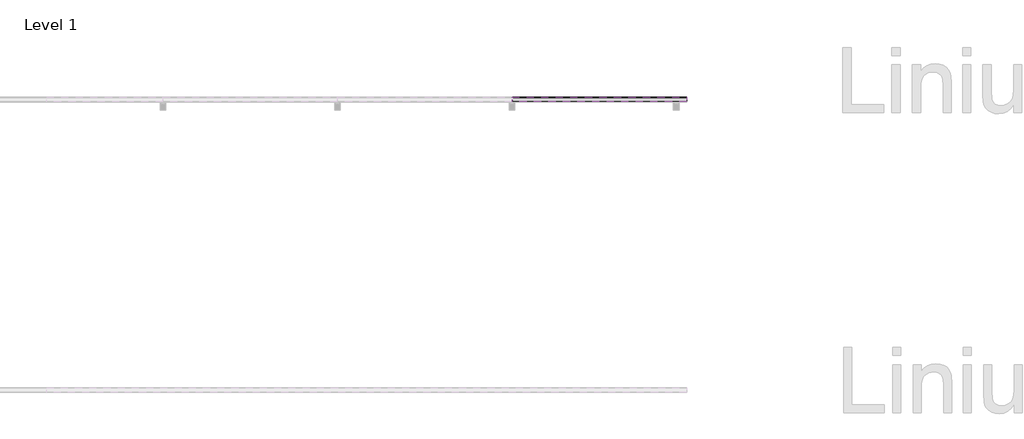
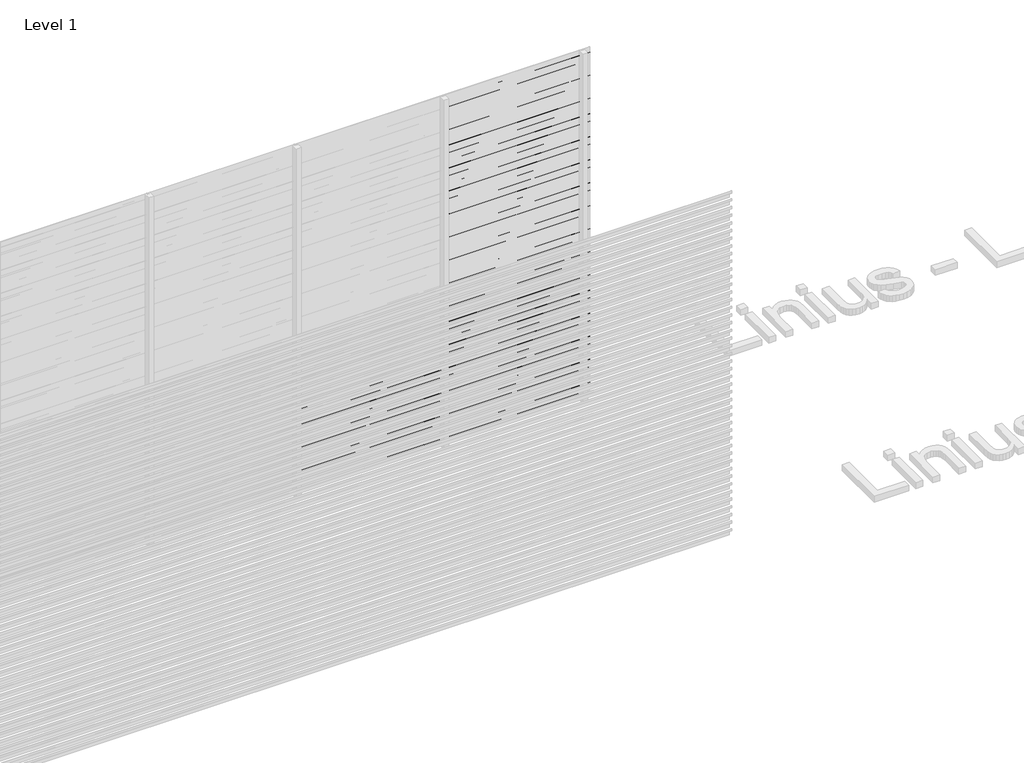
# One storey, part 98 of 540: 56 proxies.
"""IFC4 building model written with IfcOpenShell, lengths in millimetres."""

from ifc_helpers import new_model, si_unit, frame, origin, place, context, project, spatial, polyline, outline, extrude, element, save

model = new_model("IFC4")

# Units and contexts
model_context = context("Model", 3, world=origin())
ifc_project = project(units=[si_unit("LENGTHUNIT", "METRE", prefix="MILLI")], contexts=[model_context])

# Site, building, storey
site = spatial("IfcSite", under=ifc_project)
building = spatial("IfcBuilding", under=site)
storey = spatial("IfcBuildingStorey", under=building, Name="Level 1", Elevation=0.0)

# Proxies
placement = place(None, origin())
element("IfcBuildingElementProxy", 1, Name="Wall Sweeps", at=placement, inside=storey, context=model_context, shape_type="SweptSolid", body=[
    extrude(outline(polyline([(36543.8040136, 686.0), (36543.8040136, 653.0), (36542.5540136, 653.7216933), (36542.5540136, 685.2872415), (36512.8040136, 706.0588647), (36512.8040136, 726.0), (36514.0540136, 726.0), (36514.0540136, 706.7716232), (36543.8040136, 686.0)])), frame((48566.6208097, 0.0, 0.0), z_axis=(1.0, 0.0, 0.0), x_axis=(0.0, 1.0, 0.0)), (0.0, 0.0, 1.0), 1200.0),
])
element("IfcBuildingElementProxy", 2, Name="Wall Sweeps", at=placement, inside=storey, context=model_context, shape_type="SweptSolid", body=[
    extrude(outline(polyline([(36543.8040136, 620.0), (36543.8040136, 587.0), (36542.5540136, 587.7216933), (36542.5540136, 619.2872415), (36512.8040136, 640.0588647), (36512.8040136, 660.0), (36514.0540136, 660.0), (36514.0540136, 640.7716232), (36543.8040136, 620.0)])), frame((48566.6208097, 0.0, 0.0), z_axis=(1.0, 0.0, 0.0), x_axis=(0.0, 1.0, 0.0)), (0.0, 0.0, 1.0), 1200.0),
])
element("IfcBuildingElementProxy", 3, Name="Wall Sweeps", at=placement, inside=storey, context=model_context, shape_type="SweptSolid", body=[
    extrude(outline(polyline([(36543.8040136, 554.0), (36543.8040136, 521.0), (36542.5540136, 521.7216933), (36542.5540136, 553.2872415), (36512.8040136, 574.0588647), (36512.8040136, 594.0), (36514.0540136, 594.0), (36514.0540136, 574.7716232), (36543.8040136, 554.0)])), frame((48566.6208097, 0.0, 0.0), z_axis=(1.0, 0.0, 0.0), x_axis=(0.0, 1.0, 0.0)), (0.0, 0.0, 1.0), 1200.0),
])
element("IfcBuildingElementProxy", 4, Name="Wall Sweeps", at=placement, inside=storey, context=model_context, shape_type="SweptSolid", body=[
    extrude(outline(polyline([(36543.8040136, 488.0), (36543.8040136, 455.0), (36542.5540136, 455.7216933), (36542.5540136, 487.2872415), (36512.8040136, 508.0588647), (36512.8040136, 528.0), (36514.0540136, 528.0), (36514.0540136, 508.7716232), (36543.8040136, 488.0)])), frame((48566.6208097, 0.0, 0.0), z_axis=(1.0, 0.0, 0.0), x_axis=(0.0, 1.0, 0.0)), (0.0, 0.0, 1.0), 1200.0),
])
element("IfcBuildingElementProxy", 5, Name="Wall Sweeps", at=placement, inside=storey, context=model_context, shape_type="SweptSolid", body=[
    extrude(outline(polyline([(36543.8040136, 422.0), (36543.8040136, 389.0), (36542.5540136, 389.7216933), (36542.5540136, 421.2872415), (36512.8040136, 442.0588647), (36512.8040136, 462.0), (36514.0540136, 462.0), (36514.0540136, 442.7716232), (36543.8040136, 422.0)])), frame((48566.6208097, 0.0, 0.0), z_axis=(1.0, 0.0, 0.0), x_axis=(0.0, 1.0, 0.0)), (0.0, 0.0, 1.0), 1200.0),
])
element("IfcBuildingElementProxy", 6, Name="Wall Sweeps", at=placement, inside=storey, context=model_context, shape_type="SweptSolid", body=[
    extrude(outline(polyline([(36543.8040136, 356.0), (36543.8040136, 323.0), (36542.5540136, 323.7216933), (36542.5540136, 355.2872415), (36512.8040136, 376.0588647), (36512.8040136, 396.0), (36514.0540136, 396.0), (36514.0540136, 376.7716232), (36543.8040136, 356.0)])), frame((48566.6208097, 0.0, 0.0), z_axis=(1.0, 0.0, 0.0), x_axis=(0.0, 1.0, 0.0)), (0.0, 0.0, 1.0), 1200.0),
])
element("IfcBuildingElementProxy", 7, Name="Wall Sweeps", at=placement, inside=storey, context=model_context, shape_type="SweptSolid", body=[
    extrude(outline(polyline([(36543.8040136, 290.0), (36543.8040136, 257.0), (36542.5540136, 257.7216933), (36542.5540136, 289.2872415), (36512.8040136, 310.0588647), (36512.8040136, 330.0), (36514.0540136, 330.0), (36514.0540136, 310.7716232), (36543.8040136, 290.0)])), frame((48566.6208097, 0.0, 0.0), z_axis=(1.0, 0.0, 0.0), x_axis=(0.0, 1.0, 0.0)), (0.0, 0.0, 1.0), 1200.0),
])
element("IfcBuildingElementProxy", 8, Name="Wall Sweeps", at=placement, inside=storey, context=model_context, shape_type="SweptSolid", body=[
    extrude(outline(polyline([(36543.8040136, 224.0), (36543.8040136, 191.0), (36542.5540136, 191.7216933), (36542.5540136, 223.2872415), (36512.8040136, 244.0588647), (36512.8040136, 264.0), (36514.0540136, 264.0), (36514.0540136, 244.7716232), (36543.8040136, 224.0)])), frame((48566.6208097, 0.0, 0.0), z_axis=(1.0, 0.0, 0.0), x_axis=(0.0, 1.0, 0.0)), (0.0, 0.0, 1.0), 1200.0),
])
element("IfcBuildingElementProxy", 9, Name="Wall Sweeps", at=placement, inside=storey, context=model_context, shape_type="SweptSolid", body=[
    extrude(outline(polyline([(36543.8040136, 158.0), (36543.8040136, 125.0), (36542.5540136, 125.7216933), (36542.5540136, 157.2872415), (36512.8040136, 178.0588647), (36512.8040136, 198.0), (36514.0540136, 198.0), (36514.0540136, 178.7716232), (36543.8040136, 158.0)])), frame((48566.6208097, 0.0, 0.0), z_axis=(1.0, 0.0, 0.0), x_axis=(0.0, 1.0, 0.0)), (0.0, 0.0, 1.0), 1200.0),
])
element("IfcBuildingElementProxy", 10, Name="Wall Sweeps", at=placement, inside=storey, context=model_context, shape_type="SweptSolid", body=[
    extrude(outline(polyline([(36543.8040136, 92.0), (36543.8040136, 59.0), (36542.5540136, 59.7216933), (36542.5540136, 91.2872415), (36512.8040136, 112.0588647), (36512.8040136, 132.0), (36514.0540136, 132.0), (36514.0540136, 112.7716232), (36543.8040136, 92.0)])), frame((48566.6208097, 0.0, 0.0), z_axis=(1.0, 0.0, 0.0), x_axis=(0.0, 1.0, 0.0)), (0.0, 0.0, 1.0), 1200.0),
])
element("IfcBuildingElementProxy", 11, Name="Wall Sweeps", at=placement, inside=storey, context=model_context, shape_type="SweptSolid", body=[
    extrude(outline(polyline([(36543.8040136, 26.0), (36543.8040136, -7.0), (36542.5540136, -6.2783067), (36542.5540136, 25.2872415), (36512.8040136, 46.0588647), (36512.8040136, 66.0), (36514.0540136, 66.0), (36514.0540136, 46.7716232), (36543.8040136, 26.0)])), frame((48566.6208097, 0.0, 0.0), z_axis=(1.0, 0.0, 0.0), x_axis=(0.0, 1.0, 0.0)), (0.0, 0.0, 1.0), 1200.0),
])
element("IfcBuildingElementProxy", 12, Name="Wall Sweeps", at=placement, inside=storey, context=model_context, shape_type="SweptSolid", body=[
    extrude(outline(polyline([(36543.8040136, 2930.0), (36543.8040136, 2897.0), (36542.5540136, 2897.7216933), (36542.5540136, 2929.2872415), (36512.8040136, 2950.0588647), (36512.8040136, 2970.0), (36514.0540136, 2970.0), (36514.0540136, 2950.7716232), (36543.8040136, 2930.0)])), frame((49766.6208097, 0.0, 0.0), z_axis=(1.0, 0.0, 0.0), x_axis=(0.0, 1.0, 0.0)), (0.0, 0.0, 1.0), 1200.0),
])
element("IfcBuildingElementProxy", 13, Name="Wall Sweeps", at=placement, inside=storey, context=model_context, shape_type="SweptSolid", body=[
    extrude(outline(polyline([(36543.8040136, 2864.0), (36543.8040136, 2831.0), (36542.5540136, 2831.7216933), (36542.5540136, 2863.2872415), (36512.8040136, 2884.0588647), (36512.8040136, 2904.0), (36514.0540136, 2904.0), (36514.0540136, 2884.7716232), (36543.8040136, 2864.0)])), frame((49766.6208097, 0.0, 0.0), z_axis=(1.0, 0.0, 0.0), x_axis=(0.0, 1.0, 0.0)), (0.0, 0.0, 1.0), 1200.0),
])
element("IfcBuildingElementProxy", 14, Name="Wall Sweeps", at=placement, inside=storey, context=model_context, shape_type="SweptSolid", body=[
    extrude(outline(polyline([(36543.8040136, 2798.0), (36543.8040136, 2765.0), (36542.5540136, 2765.7216933), (36542.5540136, 2797.2872415), (36512.8040136, 2818.0588647), (36512.8040136, 2838.0), (36514.0540136, 2838.0), (36514.0540136, 2818.7716232), (36543.8040136, 2798.0)])), frame((49766.6208097, 0.0, 0.0), z_axis=(1.0, 0.0, 0.0), x_axis=(0.0, 1.0, 0.0)), (0.0, 0.0, 1.0), 1200.0),
])
element("IfcBuildingElementProxy", 15, Name="Wall Sweeps", at=placement, inside=storey, context=model_context, shape_type="SweptSolid", body=[
    extrude(outline(polyline([(36543.8040136, 2732.0), (36543.8040136, 2699.0), (36542.5540136, 2699.7216933), (36542.5540136, 2731.2872415), (36512.8040136, 2752.0588647), (36512.8040136, 2772.0), (36514.0540136, 2772.0), (36514.0540136, 2752.7716232), (36543.8040136, 2732.0)])), frame((49766.6208097, 0.0, 0.0), z_axis=(1.0, 0.0, 0.0), x_axis=(0.0, 1.0, 0.0)), (0.0, 0.0, 1.0), 1200.0),
])
element("IfcBuildingElementProxy", 16, Name="Wall Sweeps", at=placement, inside=storey, context=model_context, shape_type="SweptSolid", body=[
    extrude(outline(polyline([(36543.8040136, 2666.0), (36543.8040136, 2633.0), (36542.5540136, 2633.7216933), (36542.5540136, 2665.2872415), (36512.8040136, 2686.0588647), (36512.8040136, 2706.0), (36514.0540136, 2706.0), (36514.0540136, 2686.7716232), (36543.8040136, 2666.0)])), frame((49766.6208097, 0.0, 0.0), z_axis=(1.0, 0.0, 0.0), x_axis=(0.0, 1.0, 0.0)), (0.0, 0.0, 1.0), 1200.0),
])
element("IfcBuildingElementProxy", 17, Name="Wall Sweeps", at=placement, inside=storey, context=model_context, shape_type="SweptSolid", body=[
    extrude(outline(polyline([(36543.8040136, 2600.0), (36543.8040136, 2567.0), (36542.5540136, 2567.7216933), (36542.5540136, 2599.2872415), (36512.8040136, 2620.0588647), (36512.8040136, 2640.0), (36514.0540136, 2640.0), (36514.0540136, 2620.7716232), (36543.8040136, 2600.0)])), frame((49766.6208097, 0.0, 0.0), z_axis=(1.0, 0.0, 0.0), x_axis=(0.0, 1.0, 0.0)), (0.0, 0.0, 1.0), 1200.0),
])
element("IfcBuildingElementProxy", 18, Name="Wall Sweeps", at=placement, inside=storey, context=model_context, shape_type="SweptSolid", body=[
    extrude(outline(polyline([(36543.8040136, 2534.0), (36543.8040136, 2501.0), (36542.5540136, 2501.7216933), (36542.5540136, 2533.2872415), (36512.8040136, 2554.0588647), (36512.8040136, 2574.0), (36514.0540136, 2574.0), (36514.0540136, 2554.7716232), (36543.8040136, 2534.0)])), frame((49766.6208097, 0.0, 0.0), z_axis=(1.0, 0.0, 0.0), x_axis=(0.0, 1.0, 0.0)), (0.0, 0.0, 1.0), 1200.0),
])
element("IfcBuildingElementProxy", 19, Name="Wall Sweeps", at=placement, inside=storey, context=model_context, shape_type="SweptSolid", body=[
    extrude(outline(polyline([(36543.8040136, 2468.0), (36543.8040136, 2435.0), (36542.5540136, 2435.7216933), (36542.5540136, 2467.2872415), (36512.8040136, 2488.0588647), (36512.8040136, 2508.0), (36514.0540136, 2508.0), (36514.0540136, 2488.7716232), (36543.8040136, 2468.0)])), frame((49766.6208097, 0.0, 0.0), z_axis=(1.0, 0.0, 0.0), x_axis=(0.0, 1.0, 0.0)), (0.0, 0.0, 1.0), 1200.0),
])
element("IfcBuildingElementProxy", 20, Name="Wall Sweeps", at=placement, inside=storey, context=model_context, shape_type="SweptSolid", body=[
    extrude(outline(polyline([(36543.8040136, 2402.0), (36543.8040136, 2369.0), (36542.5540136, 2369.7216933), (36542.5540136, 2401.2872415), (36512.8040136, 2422.0588647), (36512.8040136, 2442.0), (36514.0540136, 2442.0), (36514.0540136, 2422.7716232), (36543.8040136, 2402.0)])), frame((49766.6208097, 0.0, 0.0), z_axis=(1.0, 0.0, 0.0), x_axis=(0.0, 1.0, 0.0)), (0.0, 0.0, 1.0), 1200.0),
])
element("IfcBuildingElementProxy", 21, Name="Wall Sweeps", at=placement, inside=storey, context=model_context, shape_type="SweptSolid", body=[
    extrude(outline(polyline([(36543.8040136, 2336.0), (36543.8040136, 2303.0), (36542.5540136, 2303.7216933), (36542.5540136, 2335.2872415), (36512.8040136, 2356.0588647), (36512.8040136, 2376.0), (36514.0540136, 2376.0), (36514.0540136, 2356.7716232), (36543.8040136, 2336.0)])), frame((49766.6208097, 0.0, 0.0), z_axis=(1.0, 0.0, 0.0), x_axis=(0.0, 1.0, 0.0)), (0.0, 0.0, 1.0), 1200.0),
])
element("IfcBuildingElementProxy", 22, Name="Wall Sweeps", at=placement, inside=storey, context=model_context, shape_type="SweptSolid", body=[
    extrude(outline(polyline([(36543.8040136, 2270.0), (36543.8040136, 2237.0), (36542.5540136, 2237.7216933), (36542.5540136, 2269.2872415), (36512.8040136, 2290.0588647), (36512.8040136, 2310.0), (36514.0540136, 2310.0), (36514.0540136, 2290.7716232), (36543.8040136, 2270.0)])), frame((49766.6208097, 0.0, 0.0), z_axis=(1.0, 0.0, 0.0), x_axis=(0.0, 1.0, 0.0)), (0.0, 0.0, 1.0), 1200.0),
])
element("IfcBuildingElementProxy", 23, Name="Wall Sweeps", at=placement, inside=storey, context=model_context, shape_type="SweptSolid", body=[
    extrude(outline(polyline([(36543.8040136, 2204.0), (36543.8040136, 2171.0), (36542.5540136, 2171.7216933), (36542.5540136, 2203.2872415), (36512.8040136, 2224.0588647), (36512.8040136, 2244.0), (36514.0540136, 2244.0), (36514.0540136, 2224.7716232), (36543.8040136, 2204.0)])), frame((49766.6208097, 0.0, 0.0), z_axis=(1.0, 0.0, 0.0), x_axis=(0.0, 1.0, 0.0)), (0.0, 0.0, 1.0), 1200.0),
])
element("IfcBuildingElementProxy", 24, Name="Wall Sweeps", at=placement, inside=storey, context=model_context, shape_type="SweptSolid", body=[
    extrude(outline(polyline([(36543.8040136, 2138.0), (36543.8040136, 2105.0), (36542.5540136, 2105.7216933), (36542.5540136, 2137.2872415), (36512.8040136, 2158.0588647), (36512.8040136, 2178.0), (36514.0540136, 2178.0), (36514.0540136, 2158.7716232), (36543.8040136, 2138.0)])), frame((49766.6208097, 0.0, 0.0), z_axis=(1.0, 0.0, 0.0), x_axis=(0.0, 1.0, 0.0)), (0.0, 0.0, 1.0), 1200.0),
])
element("IfcBuildingElementProxy", 25, Name="Wall Sweeps", at=placement, inside=storey, context=model_context, shape_type="SweptSolid", body=[
    extrude(outline(polyline([(36543.8040136, 2072.0), (36543.8040136, 2039.0), (36542.5540136, 2039.7216933), (36542.5540136, 2071.2872415), (36512.8040136, 2092.0588647), (36512.8040136, 2112.0), (36514.0540136, 2112.0), (36514.0540136, 2092.7716232), (36543.8040136, 2072.0)])), frame((49766.6208097, 0.0, 0.0), z_axis=(1.0, 0.0, 0.0), x_axis=(0.0, 1.0, 0.0)), (0.0, 0.0, 1.0), 1200.0),
])
element("IfcBuildingElementProxy", 26, Name="Wall Sweeps", at=placement, inside=storey, context=model_context, shape_type="SweptSolid", body=[
    extrude(outline(polyline([(36543.8040136, 2006.0), (36543.8040136, 1973.0), (36542.5540136, 1973.7216933), (36542.5540136, 2005.2872415), (36512.8040136, 2026.0588647), (36512.8040136, 2046.0), (36514.0540136, 2046.0), (36514.0540136, 2026.7716232), (36543.8040136, 2006.0)])), frame((49766.6208097, 0.0, 0.0), z_axis=(1.0, 0.0, 0.0), x_axis=(0.0, 1.0, 0.0)), (0.0, 0.0, 1.0), 1200.0),
])
element("IfcBuildingElementProxy", 27, Name="Wall Sweeps", at=placement, inside=storey, context=model_context, shape_type="SweptSolid", body=[
    extrude(outline(polyline([(36543.8040136, 1940.0), (36543.8040136, 1907.0), (36542.5540136, 1907.7216933), (36542.5540136, 1939.2872415), (36512.8040136, 1960.0588647), (36512.8040136, 1980.0), (36514.0540136, 1980.0), (36514.0540136, 1960.7716232), (36543.8040136, 1940.0)])), frame((49766.6208097, 0.0, 0.0), z_axis=(1.0, 0.0, 0.0), x_axis=(0.0, 1.0, 0.0)), (0.0, 0.0, 1.0), 1200.0),
])
element("IfcBuildingElementProxy", 28, Name="Wall Sweeps", at=placement, inside=storey, context=model_context, shape_type="SweptSolid", body=[
    extrude(outline(polyline([(36543.8040136, 1874.0), (36543.8040136, 1841.0), (36542.5540136, 1841.7216933), (36542.5540136, 1873.2872415), (36512.8040136, 1894.0588647), (36512.8040136, 1914.0), (36514.0540136, 1914.0), (36514.0540136, 1894.7716232), (36543.8040136, 1874.0)])), frame((49766.6208097, 0.0, 0.0), z_axis=(1.0, 0.0, 0.0), x_axis=(0.0, 1.0, 0.0)), (0.0, 0.0, 1.0), 1200.0),
])
element("IfcBuildingElementProxy", 29, Name="Wall Sweeps", at=placement, inside=storey, context=model_context, shape_type="SweptSolid", body=[
    extrude(outline(polyline([(36543.8040136, 1808.0), (36543.8040136, 1775.0), (36542.5540136, 1775.7216933), (36542.5540136, 1807.2872415), (36512.8040136, 1828.0588647), (36512.8040136, 1848.0), (36514.0540136, 1848.0), (36514.0540136, 1828.7716232), (36543.8040136, 1808.0)])), frame((49766.6208097, 0.0, 0.0), z_axis=(1.0, 0.0, 0.0), x_axis=(0.0, 1.0, 0.0)), (0.0, 0.0, 1.0), 1200.0),
])
element("IfcBuildingElementProxy", 30, Name="Wall Sweeps", at=placement, inside=storey, context=model_context, shape_type="SweptSolid", body=[
    extrude(outline(polyline([(36543.8040136, 1742.0), (36543.8040136, 1709.0), (36542.5540136, 1709.7216933), (36542.5540136, 1741.2872415), (36512.8040136, 1762.0588647), (36512.8040136, 1782.0), (36514.0540136, 1782.0), (36514.0540136, 1762.7716232), (36543.8040136, 1742.0)])), frame((49766.6208097, 0.0, 0.0), z_axis=(1.0, 0.0, 0.0), x_axis=(0.0, 1.0, 0.0)), (0.0, 0.0, 1.0), 1200.0),
])
element("IfcBuildingElementProxy", 31, Name="Wall Sweeps", at=placement, inside=storey, context=model_context, shape_type="SweptSolid", body=[
    extrude(outline(polyline([(36543.8040136, 1676.0), (36543.8040136, 1643.0), (36542.5540136, 1643.7216933), (36542.5540136, 1675.2872415), (36512.8040136, 1696.0588647), (36512.8040136, 1716.0), (36514.0540136, 1716.0), (36514.0540136, 1696.7716232), (36543.8040136, 1676.0)])), frame((49766.6208097, 0.0, 0.0), z_axis=(1.0, 0.0, 0.0), x_axis=(0.0, 1.0, 0.0)), (0.0, 0.0, 1.0), 1200.0),
])
element("IfcBuildingElementProxy", 32, Name="Wall Sweeps", at=placement, inside=storey, context=model_context, shape_type="SweptSolid", body=[
    extrude(outline(polyline([(36543.8040136, 1610.0), (36543.8040136, 1577.0), (36542.5540136, 1577.7216933), (36542.5540136, 1609.2872415), (36512.8040136, 1630.0588647), (36512.8040136, 1650.0), (36514.0540136, 1650.0), (36514.0540136, 1630.7716232), (36543.8040136, 1610.0)])), frame((49766.6208097, 0.0, 0.0), z_axis=(1.0, 0.0, 0.0), x_axis=(0.0, 1.0, 0.0)), (0.0, 0.0, 1.0), 1200.0),
])
element("IfcBuildingElementProxy", 33, Name="Wall Sweeps", at=placement, inside=storey, context=model_context, shape_type="SweptSolid", body=[
    extrude(outline(polyline([(36543.8040136, 1544.0), (36543.8040136, 1511.0), (36542.5540136, 1511.7216933), (36542.5540136, 1543.2872415), (36512.8040136, 1564.0588647), (36512.8040136, 1584.0), (36514.0540136, 1584.0), (36514.0540136, 1564.7716232), (36543.8040136, 1544.0)])), frame((49766.6208097, 0.0, 0.0), z_axis=(1.0, 0.0, 0.0), x_axis=(0.0, 1.0, 0.0)), (0.0, 0.0, 1.0), 1200.0),
])
element("IfcBuildingElementProxy", 34, Name="Wall Sweeps", at=placement, inside=storey, context=model_context, shape_type="SweptSolid", body=[
    extrude(outline(polyline([(36543.8040136, 1478.0), (36543.8040136, 1445.0), (36542.5540136, 1445.7216933), (36542.5540136, 1477.2872415), (36512.8040136, 1498.0588647), (36512.8040136, 1518.0), (36514.0540136, 1518.0), (36514.0540136, 1498.7716232), (36543.8040136, 1478.0)])), frame((49766.6208097, 0.0, 0.0), z_axis=(1.0, 0.0, 0.0), x_axis=(0.0, 1.0, 0.0)), (0.0, 0.0, 1.0), 1200.0),
])
element("IfcBuildingElementProxy", 35, Name="Wall Sweeps", at=placement, inside=storey, context=model_context, shape_type="SweptSolid", body=[
    extrude(outline(polyline([(36543.8040136, 1412.0), (36543.8040136, 1379.0), (36542.5540136, 1379.7216933), (36542.5540136, 1411.2872415), (36512.8040136, 1432.0588647), (36512.8040136, 1452.0), (36514.0540136, 1452.0), (36514.0540136, 1432.7716232), (36543.8040136, 1412.0)])), frame((49766.6208097, 0.0, 0.0), z_axis=(1.0, 0.0, 0.0), x_axis=(0.0, 1.0, 0.0)), (0.0, 0.0, 1.0), 1200.0),
])
element("IfcBuildingElementProxy", 36, Name="Wall Sweeps", at=placement, inside=storey, context=model_context, shape_type="SweptSolid", body=[
    extrude(outline(polyline([(36543.8040136, 1346.0), (36543.8040136, 1313.0), (36542.5540136, 1313.7216933), (36542.5540136, 1345.2872415), (36512.8040136, 1366.0588647), (36512.8040136, 1386.0), (36514.0540136, 1386.0), (36514.0540136, 1366.7716232), (36543.8040136, 1346.0)])), frame((49766.6208097, 0.0, 0.0), z_axis=(1.0, 0.0, 0.0), x_axis=(0.0, 1.0, 0.0)), (0.0, 0.0, 1.0), 1200.0),
])
element("IfcBuildingElementProxy", 37, Name="Wall Sweeps", at=placement, inside=storey, context=model_context, shape_type="SweptSolid", body=[
    extrude(outline(polyline([(36543.8040136, 1280.0), (36543.8040136, 1247.0), (36542.5540136, 1247.7216933), (36542.5540136, 1279.2872415), (36512.8040136, 1300.0588647), (36512.8040136, 1320.0), (36514.0540136, 1320.0), (36514.0540136, 1300.7716232), (36543.8040136, 1280.0)])), frame((49766.6208097, 0.0, 0.0), z_axis=(1.0, 0.0, 0.0), x_axis=(0.0, 1.0, 0.0)), (0.0, 0.0, 1.0), 1200.0),
])
element("IfcBuildingElementProxy", 38, Name="Wall Sweeps", at=placement, inside=storey, context=model_context, shape_type="SweptSolid", body=[
    extrude(outline(polyline([(36543.8040136, 1214.0), (36543.8040136, 1181.0), (36542.5540136, 1181.7216933), (36542.5540136, 1213.2872415), (36512.8040136, 1234.0588647), (36512.8040136, 1254.0), (36514.0540136, 1254.0), (36514.0540136, 1234.7716232), (36543.8040136, 1214.0)])), frame((49766.6208097, 0.0, 0.0), z_axis=(1.0, 0.0, 0.0), x_axis=(0.0, 1.0, 0.0)), (0.0, 0.0, 1.0), 1200.0),
])
element("IfcBuildingElementProxy", 39, Name="Wall Sweeps", at=placement, inside=storey, context=model_context, shape_type="SweptSolid", body=[
    extrude(outline(polyline([(36543.8040136, 1148.0), (36543.8040136, 1115.0), (36542.5540136, 1115.7216933), (36542.5540136, 1147.2872415), (36512.8040136, 1168.0588647), (36512.8040136, 1188.0), (36514.0540136, 1188.0), (36514.0540136, 1168.7716232), (36543.8040136, 1148.0)])), frame((49766.6208097, 0.0, 0.0), z_axis=(1.0, 0.0, 0.0), x_axis=(0.0, 1.0, 0.0)), (0.0, 0.0, 1.0), 1200.0),
])
element("IfcBuildingElementProxy", 40, Name="Wall Sweeps", at=placement, inside=storey, context=model_context, shape_type="SweptSolid", body=[
    extrude(outline(polyline([(36543.8040136, 1082.0), (36543.8040136, 1049.0), (36542.5540136, 1049.7216933), (36542.5540136, 1081.2872415), (36512.8040136, 1102.0588647), (36512.8040136, 1122.0), (36514.0540136, 1122.0), (36514.0540136, 1102.7716232), (36543.8040136, 1082.0)])), frame((49766.6208097, 0.0, 0.0), z_axis=(1.0, 0.0, 0.0), x_axis=(0.0, 1.0, 0.0)), (0.0, 0.0, 1.0), 1200.0),
])
element("IfcBuildingElementProxy", 41, Name="Wall Sweeps", at=placement, inside=storey, context=model_context, shape_type="SweptSolid", body=[
    extrude(outline(polyline([(36543.8040136, 1016.0), (36543.8040136, 983.0), (36542.5540136, 983.7216933), (36542.5540136, 1015.2872415), (36512.8040136, 1036.0588647), (36512.8040136, 1056.0), (36514.0540136, 1056.0), (36514.0540136, 1036.7716232), (36543.8040136, 1016.0)])), frame((49766.6208097, 0.0, 0.0), z_axis=(1.0, 0.0, 0.0), x_axis=(0.0, 1.0, 0.0)), (0.0, 0.0, 1.0), 1200.0),
])
element("IfcBuildingElementProxy", 42, Name="Wall Sweeps", at=placement, inside=storey, context=model_context, shape_type="SweptSolid", body=[
    extrude(outline(polyline([(36543.8040136, 950.0), (36543.8040136, 917.0), (36542.5540136, 917.7216933), (36542.5540136, 949.2872415), (36512.8040136, 970.0588647), (36512.8040136, 990.0), (36514.0540136, 990.0), (36514.0540136, 970.7716232), (36543.8040136, 950.0)])), frame((49766.6208097, 0.0, 0.0), z_axis=(1.0, 0.0, 0.0), x_axis=(0.0, 1.0, 0.0)), (0.0, 0.0, 1.0), 1200.0),
])
element("IfcBuildingElementProxy", 43, Name="Wall Sweeps", at=placement, inside=storey, context=model_context, shape_type="SweptSolid", body=[
    extrude(outline(polyline([(36543.8040136, 884.0), (36543.8040136, 851.0), (36542.5540136, 851.7216933), (36542.5540136, 883.2872415), (36512.8040136, 904.0588647), (36512.8040136, 924.0), (36514.0540136, 924.0), (36514.0540136, 904.7716232), (36543.8040136, 884.0)])), frame((49766.6208097, 0.0, 0.0), z_axis=(1.0, 0.0, 0.0), x_axis=(0.0, 1.0, 0.0)), (0.0, 0.0, 1.0), 1200.0),
])
element("IfcBuildingElementProxy", 44, Name="Wall Sweeps", at=placement, inside=storey, context=model_context, shape_type="SweptSolid", body=[
    extrude(outline(polyline([(36543.8040136, 818.0), (36543.8040136, 785.0), (36542.5540136, 785.7216933), (36542.5540136, 817.2872415), (36512.8040136, 838.0588647), (36512.8040136, 858.0), (36514.0540136, 858.0), (36514.0540136, 838.7716232), (36543.8040136, 818.0)])), frame((49766.6208097, 0.0, 0.0), z_axis=(1.0, 0.0, 0.0), x_axis=(0.0, 1.0, 0.0)), (0.0, 0.0, 1.0), 1200.0),
])
element("IfcBuildingElementProxy", 45, Name="Wall Sweeps", at=placement, inside=storey, context=model_context, shape_type="SweptSolid", body=[
    extrude(outline(polyline([(36543.8040136, 752.0), (36543.8040136, 719.0), (36542.5540136, 719.7216933), (36542.5540136, 751.2872415), (36512.8040136, 772.0588647), (36512.8040136, 792.0), (36514.0540136, 792.0), (36514.0540136, 772.7716232), (36543.8040136, 752.0)])), frame((49766.6208097, 0.0, 0.0), z_axis=(1.0, 0.0, 0.0), x_axis=(0.0, 1.0, 0.0)), (0.0, 0.0, 1.0), 1200.0),
])
element("IfcBuildingElementProxy", 46, Name="Wall Sweeps", at=placement, inside=storey, context=model_context, shape_type="SweptSolid", body=[
    extrude(outline(polyline([(36543.8040136, 686.0), (36543.8040136, 653.0), (36542.5540136, 653.7216933), (36542.5540136, 685.2872415), (36512.8040136, 706.0588647), (36512.8040136, 726.0), (36514.0540136, 726.0), (36514.0540136, 706.7716232), (36543.8040136, 686.0)])), frame((49766.6208097, 0.0, 0.0), z_axis=(1.0, 0.0, 0.0), x_axis=(0.0, 1.0, 0.0)), (0.0, 0.0, 1.0), 1200.0),
])
element("IfcBuildingElementProxy", 47, Name="Wall Sweeps", at=placement, inside=storey, context=model_context, shape_type="SweptSolid", body=[
    extrude(outline(polyline([(36543.8040136, 620.0), (36543.8040136, 587.0), (36542.5540136, 587.7216933), (36542.5540136, 619.2872415), (36512.8040136, 640.0588647), (36512.8040136, 660.0), (36514.0540136, 660.0), (36514.0540136, 640.7716232), (36543.8040136, 620.0)])), frame((49766.6208097, 0.0, 0.0), z_axis=(1.0, 0.0, 0.0), x_axis=(0.0, 1.0, 0.0)), (0.0, 0.0, 1.0), 1200.0),
])
element("IfcBuildingElementProxy", 48, Name="Wall Sweeps", at=placement, inside=storey, context=model_context, shape_type="SweptSolid", body=[
    extrude(outline(polyline([(36543.8040136, 554.0), (36543.8040136, 521.0), (36542.5540136, 521.7216933), (36542.5540136, 553.2872415), (36512.8040136, 574.0588647), (36512.8040136, 594.0), (36514.0540136, 594.0), (36514.0540136, 574.7716232), (36543.8040136, 554.0)])), frame((49766.6208097, 0.0, 0.0), z_axis=(1.0, 0.0, 0.0), x_axis=(0.0, 1.0, 0.0)), (0.0, 0.0, 1.0), 1200.0),
])
element("IfcBuildingElementProxy", 49, Name="Wall Sweeps", at=placement, inside=storey, context=model_context, shape_type="SweptSolid", body=[
    extrude(outline(polyline([(36543.8040136, 488.0), (36543.8040136, 455.0), (36542.5540136, 455.7216933), (36542.5540136, 487.2872415), (36512.8040136, 508.0588647), (36512.8040136, 528.0), (36514.0540136, 528.0), (36514.0540136, 508.7716232), (36543.8040136, 488.0)])), frame((49766.6208097, 0.0, 0.0), z_axis=(1.0, 0.0, 0.0), x_axis=(0.0, 1.0, 0.0)), (0.0, 0.0, 1.0), 1200.0),
])
element("IfcBuildingElementProxy", 50, Name="Wall Sweeps", at=placement, inside=storey, context=model_context, shape_type="SweptSolid", body=[
    extrude(outline(polyline([(36543.8040136, 422.0), (36543.8040136, 389.0), (36542.5540136, 389.7216933), (36542.5540136, 421.2872415), (36512.8040136, 442.0588647), (36512.8040136, 462.0), (36514.0540136, 462.0), (36514.0540136, 442.7716232), (36543.8040136, 422.0)])), frame((49766.6208097, 0.0, 0.0), z_axis=(1.0, 0.0, 0.0), x_axis=(0.0, 1.0, 0.0)), (0.0, 0.0, 1.0), 1200.0),
])
element("IfcBuildingElementProxy", 51, Name="Wall Sweeps", at=placement, inside=storey, context=model_context, shape_type="SweptSolid", body=[
    extrude(outline(polyline([(36543.8040136, 356.0), (36543.8040136, 323.0), (36542.5540136, 323.7216933), (36542.5540136, 355.2872415), (36512.8040136, 376.0588647), (36512.8040136, 396.0), (36514.0540136, 396.0), (36514.0540136, 376.7716232), (36543.8040136, 356.0)])), frame((49766.6208097, 0.0, 0.0), z_axis=(1.0, 0.0, 0.0), x_axis=(0.0, 1.0, 0.0)), (0.0, 0.0, 1.0), 1200.0),
])
element("IfcBuildingElementProxy", 52, Name="Wall Sweeps", at=placement, inside=storey, context=model_context, shape_type="SweptSolid", body=[
    extrude(outline(polyline([(36543.8040136, 290.0), (36543.8040136, 257.0), (36542.5540136, 257.7216933), (36542.5540136, 289.2872415), (36512.8040136, 310.0588647), (36512.8040136, 330.0), (36514.0540136, 330.0), (36514.0540136, 310.7716232), (36543.8040136, 290.0)])), frame((49766.6208097, 0.0, 0.0), z_axis=(1.0, 0.0, 0.0), x_axis=(0.0, 1.0, 0.0)), (0.0, 0.0, 1.0), 1200.0),
])
element("IfcBuildingElementProxy", 53, Name="Wall Sweeps", at=placement, inside=storey, context=model_context, shape_type="SweptSolid", body=[
    extrude(outline(polyline([(36543.8040136, 224.0), (36543.8040136, 191.0), (36542.5540136, 191.7216933), (36542.5540136, 223.2872415), (36512.8040136, 244.0588647), (36512.8040136, 264.0), (36514.0540136, 264.0), (36514.0540136, 244.7716232), (36543.8040136, 224.0)])), frame((49766.6208097, 0.0, 0.0), z_axis=(1.0, 0.0, 0.0), x_axis=(0.0, 1.0, 0.0)), (0.0, 0.0, 1.0), 1200.0),
])
element("IfcBuildingElementProxy", 54, Name="Wall Sweeps", at=placement, inside=storey, context=model_context, shape_type="SweptSolid", body=[
    extrude(outline(polyline([(36543.8040136, 158.0), (36543.8040136, 125.0), (36542.5540136, 125.7216933), (36542.5540136, 157.2872415), (36512.8040136, 178.0588647), (36512.8040136, 198.0), (36514.0540136, 198.0), (36514.0540136, 178.7716232), (36543.8040136, 158.0)])), frame((49766.6208097, 0.0, 0.0), z_axis=(1.0, 0.0, 0.0), x_axis=(0.0, 1.0, 0.0)), (0.0, 0.0, 1.0), 1200.0),
])
element("IfcBuildingElementProxy", 55, Name="Wall Sweeps", at=placement, inside=storey, context=model_context, shape_type="SweptSolid", body=[
    extrude(outline(polyline([(36543.8040136, 92.0), (36543.8040136, 59.0), (36542.5540136, 59.7216933), (36542.5540136, 91.2872415), (36512.8040136, 112.0588647), (36512.8040136, 132.0), (36514.0540136, 132.0), (36514.0540136, 112.7716232), (36543.8040136, 92.0)])), frame((49766.6208097, 0.0, 0.0), z_axis=(1.0, 0.0, 0.0), x_axis=(0.0, 1.0, 0.0)), (0.0, 0.0, 1.0), 1200.0),
])
element("IfcBuildingElementProxy", 56, Name="Wall Sweeps", at=placement, inside=storey, context=model_context, shape_type="SweptSolid", body=[
    extrude(outline(polyline([(36543.8040136, 26.0), (36543.8040136, -7.0), (36542.5540136, -6.2783067), (36542.5540136, 25.2872415), (36512.8040136, 46.0588647), (36512.8040136, 66.0), (36514.0540136, 66.0), (36514.0540136, 46.7716232), (36543.8040136, 26.0)])), frame((49766.6208097, 0.0, 0.0), z_axis=(1.0, 0.0, 0.0), x_axis=(0.0, 1.0, 0.0)), (0.0, 0.0, 1.0), 1200.0),
])

save(model, "model.ifc")
